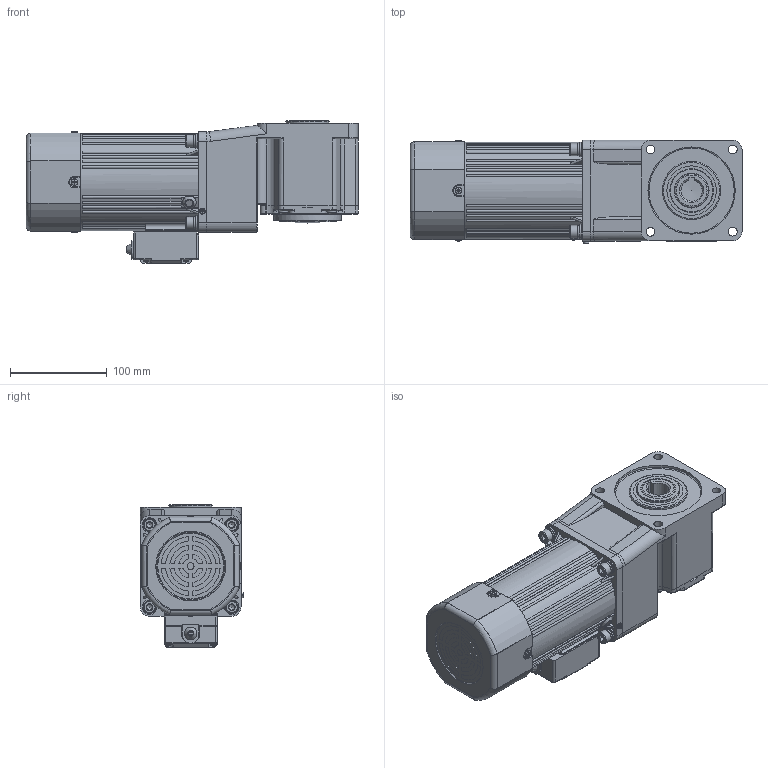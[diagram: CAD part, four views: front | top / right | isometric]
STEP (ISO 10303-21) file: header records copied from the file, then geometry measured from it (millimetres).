
FILE_DESCRIPTION(/* description */ (''),/* implementation_level */ '2;1');
FILE_NAME(/* name */ '100+直角中空-刹车风叶-160-250W 新版长款接线盒.stp',/* time_stamp */ '2025-04-07T20:00:35+08:00',/* author */ (''),/* organization */ (''),/* preprocessor_version */ 'ST-DEVELOPER v18.102',/* originating_system */ 'SIEMENS PLM Software NX 2027',/* authorisation */ '');
FILE_SCHEMA (('AP203_CONFIGURATION_CONTROLLED_3D_DESIGN_OF_MECHANICAL_PARTS_AND_ASSEMBLIES_MIM_LF { 1 0 10303 403 2 1 2}'));
Products named in the file (1): 100+直角中空-刹车风叶-160
-250W 新版_stp_objects
Bounding box: 342.5 x 106.83 x 147.5 mm (x, y, z)
Volume: 3293102.4 mm3; surface area: 467414.8 mm2
Topology: 25 solids, 25 shells, 2368 faces, 6157 edges, 3943 vertices
Faces by surface type: plane 1056, cylinder 776, bspline 224, torus 152, cone 114, sphere 46
Full cylindrical faces by diameter (mm): 2.2 x2, 2.6 x2, 2.7 x1, 2.9 x4, 3 x3, 3.2 x2, 3.3 x6, 3.5 x8, 3.6 x4, 4 x4, 4.2 x1, 4.8 x1, 5.1 x2, 5.6 x4, 6 x12, 6.8 x12, 7 x3, 7.5 x2, 7.76 x4, 8 x1, 8.4 x4, 9 x13, 9.3 x1, 9.5 x4, 10 x2, 13 x4, 14 x8, 15 x5, 15.5 x2, 19 x2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
Entity records: 73816 total; most frequent: CARTESIAN_POINT 18256, ORIENTED_EDGE 11378, DIRECTION 11119, EDGE_CURVE 5689, AXIS2_PLACEMENT_3D 4298, VERTEX_POINT 3798, EDGE_LOOP 2904, LINE 2523
